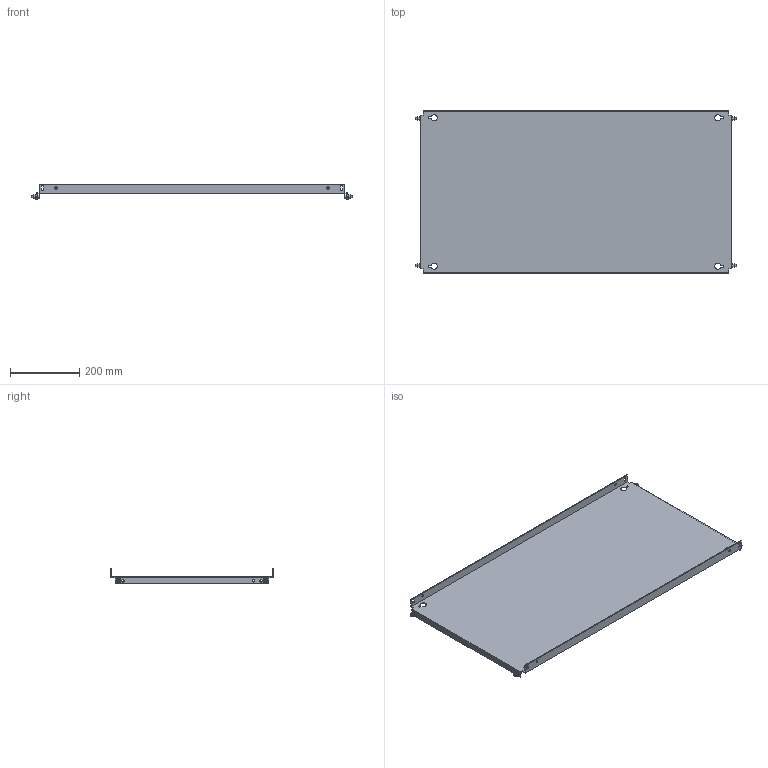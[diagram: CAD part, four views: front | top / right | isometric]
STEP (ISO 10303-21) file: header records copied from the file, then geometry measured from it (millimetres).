
FILE_DESCRIPTION(('Open CASCADE Model'),'2;1');
FILE_NAME('Open CASCADE Shape Model','2025-02-20T13:24:44',('Author'),( 'Open CASCADE'),'Open CASCADE STEP processor 7.8','Open CASCADE 7.8' ,'Unknown');
FILE_SCHEMA(('AUTOMOTIVE_DESIGN { 1 0 10303 214 1 1 1 1 }'));
Length unit declared in the file: millimetre
Products named in the file (4): Compound1; Solid1; Solid2; Solid3
Assembly tree (9 placements, depth 2):
  Compound1
    Solid1
    Solid2  x4
    Solid3  x4
Bounding box: 928 x 469 x 43 mm (x, y, z)
Volume: 960549.8 mm3; surface area: 966939.8 mm2
Topology: 9 solids, 9 shells, 308 faces, 753 edges, 467 vertices
Faces by surface type: plane 150, cone 68, bspline 48, cylinder 30, torus 12
Full cylindrical faces by diameter (mm): 5 x4, 6 x8, 7 x14
Entity records: 4930 total; most frequent: CARTESIAN_POINT 1377, ORIENTED_EDGE 756, DIRECTION 642, EDGE_CURVE 378, VERTEX_POINT 245, LINE 216, VECTOR 216, AXIS2_PLACEMENT_3D 213
